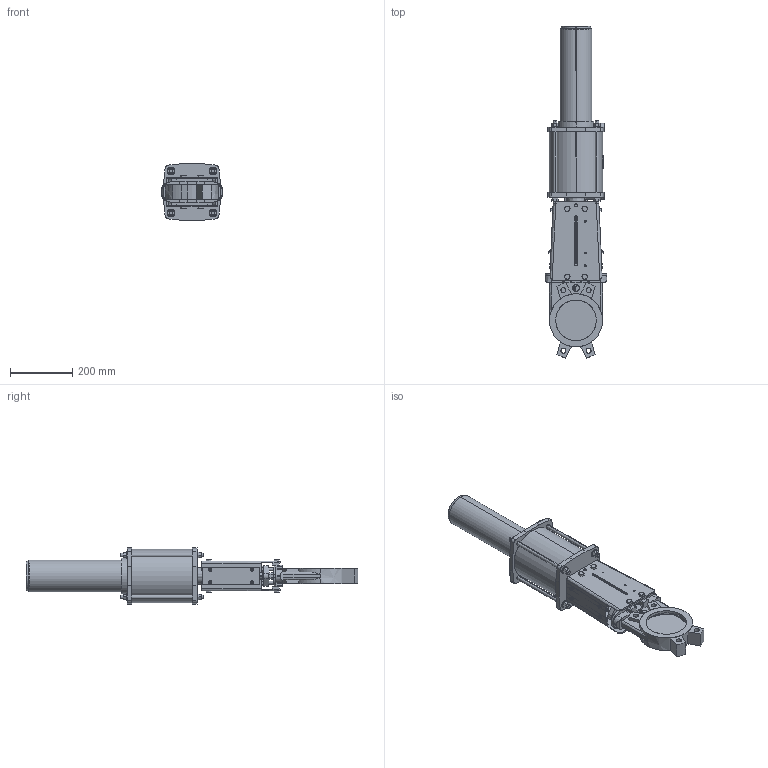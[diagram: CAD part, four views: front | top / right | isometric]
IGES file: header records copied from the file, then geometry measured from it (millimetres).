
Start section: SolidWorks IGES file using analytic representation for surfaces
Global section: file name: D:\part\3D Projects\VG-SINGLE ACTING CYLINDER N (DN50-300)\VG P N DN125\VG P N DN125.IGS; native system: SolidWorks 2009; preprocessor: SolidWorks 2009; author: zhixin.zheng; date: 100331.110840; units: millimetre
Bounding box: 198 x 1063.03 x 182 mm (x, y, z)
Surface area: 1099867.4 mm2 (no closed solid volume)
Topology: 0 solids, 0 shells, 1101 faces, 12706 edges, 12706 vertices
Faces by surface type: bspline 661, revolution 440
